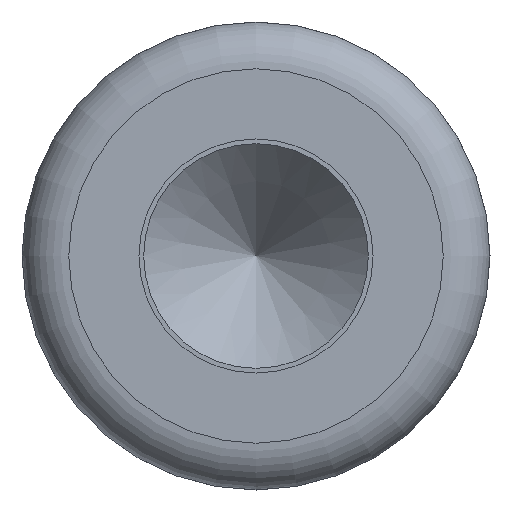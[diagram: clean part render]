
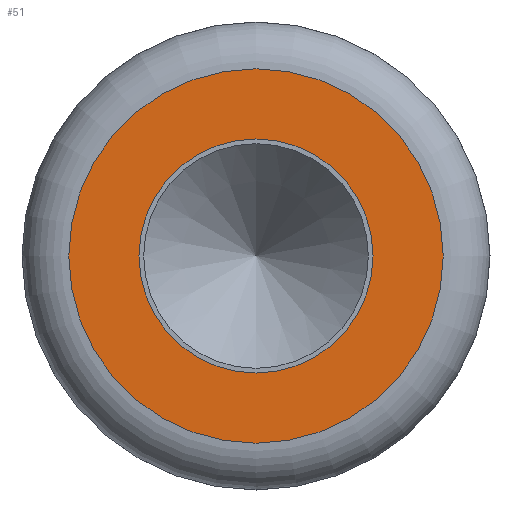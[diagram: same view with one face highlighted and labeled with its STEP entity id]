
A CAD part, front view. The second image highlights one B-rep face of the part: STEP entity #51.
In plain terms, the highlighted planar face has unit normal (0, -1, 0).
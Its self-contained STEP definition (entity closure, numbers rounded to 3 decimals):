
#31 = VERTEX_POINT('',#32);
#32 = CARTESIAN_POINT('',(0.,-79.6,8.));
#39 = EDGE_CURVE('',#31,#31,#40,.T.);
#40 = CIRCLE('',#41,8.);
#41 = AXIS2_PLACEMENT_3D('',#42,#43,#44);
#42 = CARTESIAN_POINT('',(-0.,-79.6,0.));
#43 = DIRECTION('',(0.,1.,0.));
#44 = DIRECTION('',(0.,0.,1.));
#51 = ADVANCED_FACE('',(#52,#55),#66,.F.);
#52 = FACE_BOUND('',#53,.F.);
#53 = EDGE_LOOP('',(#54));
#54 = ORIENTED_EDGE('',*,*,#39,.T.);
#55 = FACE_BOUND('',#56,.F.);
#56 = EDGE_LOOP('',(#57));
#57 = ORIENTED_EDGE('',*,*,#58,.F.);
#58 = EDGE_CURVE('',#59,#59,#61,.T.);
#59 = VERTEX_POINT('',#60);
#60 = CARTESIAN_POINT('',(0.,-79.6,5.));
#61 = CIRCLE('',#62,5.);
#62 = AXIS2_PLACEMENT_3D('',#63,#64,#65);
#63 = CARTESIAN_POINT('',(-0.,-79.6,0.));
#64 = DIRECTION('',(0.,1.,0.));
#65 = DIRECTION('',(0.,0.,1.));
#66 = PLANE('',#67);
#67 = AXIS2_PLACEMENT_3D('',#68,#69,#70);
#68 = CARTESIAN_POINT('',(-0.,-79.6,0.));
#69 = DIRECTION('',(0.,1.,0.));
#70 = DIRECTION('',(0.,0.,1.));
